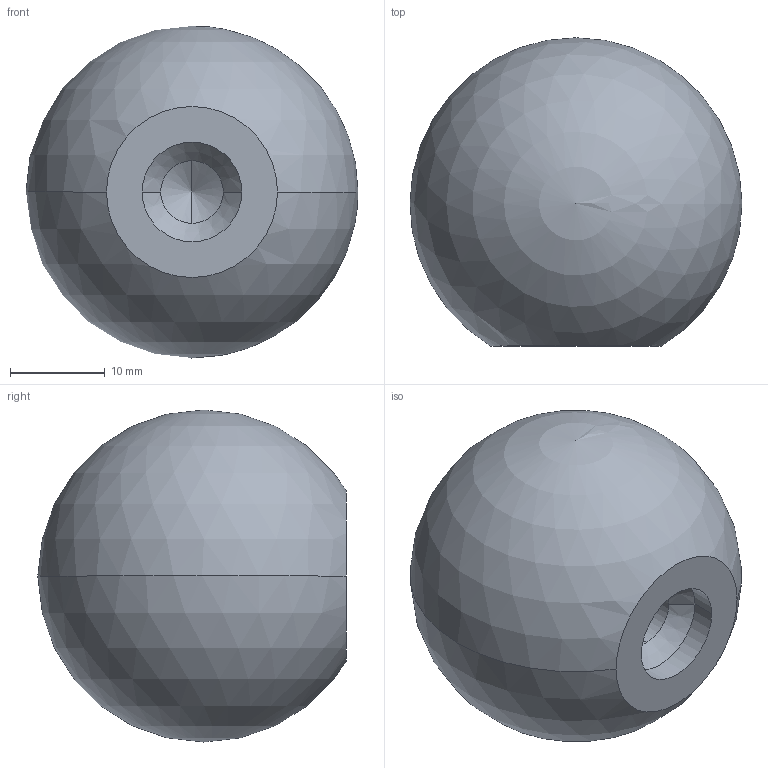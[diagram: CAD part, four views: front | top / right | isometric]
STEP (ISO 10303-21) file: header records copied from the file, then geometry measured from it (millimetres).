
FILE_DESCRIPTION (( 'STEP AP214' ), '1' );
FILE_NAME ('319-KU-35-M8-C.step', '2024-08-21T05:39:29', ( '' ), ( '' ), 'SwSTEP 2.0', 'SolidWorks 2022', '' );
FILE_SCHEMA (( 'AUTOMOTIVE_DESIGN' ));
Length unit declared in the file: millimetre
Products named in the file (1): 319-KU-35-M8-C
Bounding box: 35 x 32.5 x 35 mm (x, y, z)
Volume: 21305.5 mm3; surface area: 4219.6 mm2
Topology: 1 solids, 1 shells, 11 faces, 29 edges, 17 vertices
Faces by surface type: cylinder 4, cone 4, sphere 2, plane 1
Entity records: 350 total; most frequent: DIRECTION 60, CARTESIAN_POINT 48, ORIENTED_EDGE 44, AXIS2_PLACEMENT_3D 26, EDGE_CURVE 22, CIRCLE 14, VERTEX_POINT 14, EDGE_LOOP 12
